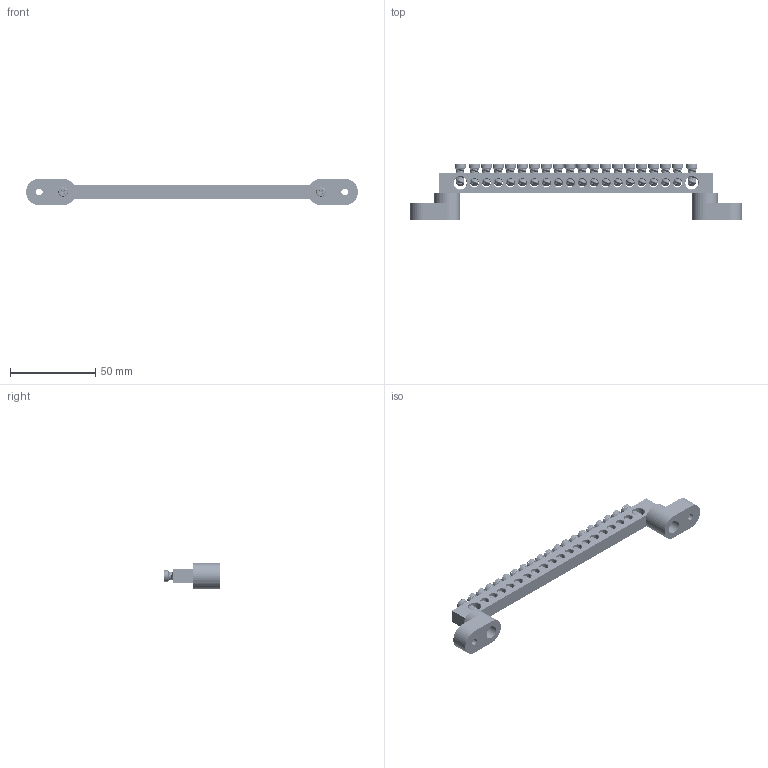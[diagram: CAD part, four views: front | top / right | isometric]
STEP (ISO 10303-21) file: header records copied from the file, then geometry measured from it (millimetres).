
FILE_DESCRIPTION (( 'STEP AP214' ), '1' );
FILE_NAME ('277914 OptiKit BB-T-N-S-20-8õ12-ñèíèé.STEP', '2020-02-06T12:44:32', ( '' ), ( '' ), 'SwSTEP 2.0', 'SolidWorks 2018', '' );
FILE_SCHEMA (( 'AUTOMOTIVE_DESIGN' ));
Length unit declared in the file: millimetre
Products named in the file (6): DIN èçîëÿòîð 2; Âèíò ì4; Øèíà íóëåâàÿ ñ êðåïåæíûìè îòâåðñòèÿìè ïî êðàÿì 8õ12 20-2_1; Âèíò ì5; Øèíà 8õ12 20 2; 277914 OptiKit BB-T-N-S-20-8õ12-ñèíèé
Assembly tree (26 placements, depth 3):
  277914 OptiKit BB-T-N-S-20-8õ12-ñèíèé
    Øèíà íóëåâàÿ ñ êðåïåæíûìè îòâåðñòèÿìè ïî êðàÿì 8õ12 20-2_1
      Øèíà 8õ12 20 2
      Âèíò ì5  x20
    Âèíò ì4  x2
    DIN èçîëÿòîð 2  x2
Bounding box: 194.4 x 33.1 x 15.4 mm (x, y, z)
Volume: 24562.2 mm3; surface area: 20604.6 mm2
Topology: 25 solids, 25 shells, 1840 faces, 5090 edges, 3280 vertices
Faces by surface type: cylinder 708, plane 612, cone 298, torus 154, bspline 68
Entity records: 16032 total; most frequent: CARTESIAN_POINT 7210, ORIENTED_EDGE 1726, DIRECTION 1653, EDGE_CURVE 863, AXIS2_PLACEMENT_3D 655, VERTEX_POINT 544, EDGE_LOOP 421, VECTOR 343
